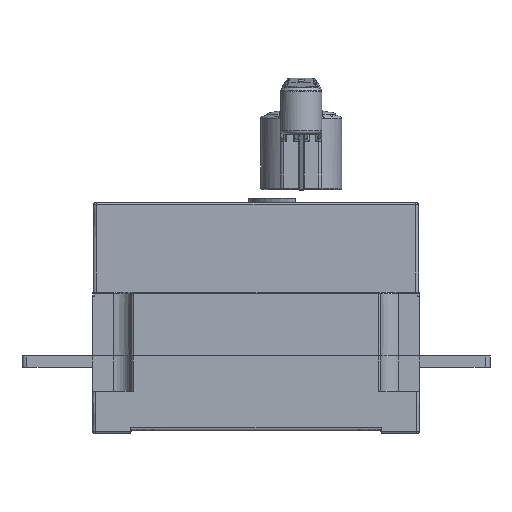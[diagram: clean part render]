
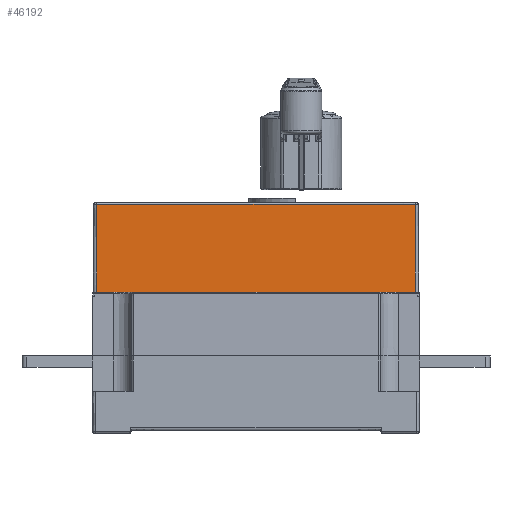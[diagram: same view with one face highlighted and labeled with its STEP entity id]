
A CAD part, left-side view. The second image highlights one B-rep face of the part: STEP entity #46192.
In plain terms, the highlighted planar face has unit normal (-1, 0, 0.005).
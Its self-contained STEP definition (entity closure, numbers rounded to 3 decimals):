
#37934=DIRECTION('',(0.,-1.,0.));
#37935=VECTOR('',#37934,195.01);
#37936=CARTESIAN_POINT('',(5.231,104.193,371.25));
#37937=LINE('',#37936,#37935);
#39275=CARTESIAN_POINT('',(5.525,103.899,424.848));
#39291=CARTESIAN_POINT('',(5.525,-90.523,
424.848));
#39342=DIRECTION('',(0.,-1.,0.));
#39343=VECTOR('',#39342,194.422);
#39344=CARTESIAN_POINT('',(5.525,103.899,424.848));
#39345=LINE('',#39344,#39343);
#39346=DIRECTION('',(-0.005,-0.005,-1.));
#39347=VECTOR('',#39346,53.6);
#39348=CARTESIAN_POINT('',(5.525,-90.523,
424.848));
#39349=LINE('',#39348,#39347);
#39350=DIRECTION('',(0.005,-0.005,1.));
#39351=VECTOR('',#39350,53.6);
#39352=CARTESIAN_POINT('',(5.231,104.193,371.25));
#39353=LINE('',#39352,#39351);
#39354=CARTESIAN_POINT('',(5.231,104.193,371.25));
#41741=VERTEX_POINT('',#39354);
#41742=CARTESIAN_POINT('',(5.231,-90.817,
371.25));
#41743=VERTEX_POINT('',#41742);
#42098=VERTEX_POINT('',#39275);
#42099=VERTEX_POINT('',#39291);
#46180=CARTESIAN_POINT('',(5.53,108.093,425.92));
#46181=DIRECTION('',(-1.,0.,0.005));
#46182=DIRECTION('',(-0.005,0.,-1.));
#46183=AXIS2_PLACEMENT_3D('',#46180,#46181,#46182);
#46184=PLANE('',#46183);
#46185=ORIENTED_EDGE('',*,*,#45991,.T.);
#46186=ORIENTED_EDGE('',*,*,#46143,.T.);
#46187=ORIENTED_EDGE('',*,*,#43791,.F.);
#46189=ORIENTED_EDGE('',*,*,#46188,.T.);
#46190=EDGE_LOOP('',(#46185,#46186,#46187,#46189));
#46191=FACE_OUTER_BOUND('',#46190,.F.);
#46192=ADVANCED_FACE('',(#46191),#46184,.T.);
#43791=EDGE_CURVE('',#41741,#41743,#37937,.T.);
#45991=EDGE_CURVE('',#42098,#42099,#39345,.T.);
#46143=EDGE_CURVE('',#42099,#41743,#39349,.T.);
#46188=EDGE_CURVE('',#41741,#42098,#39353,.T.);
